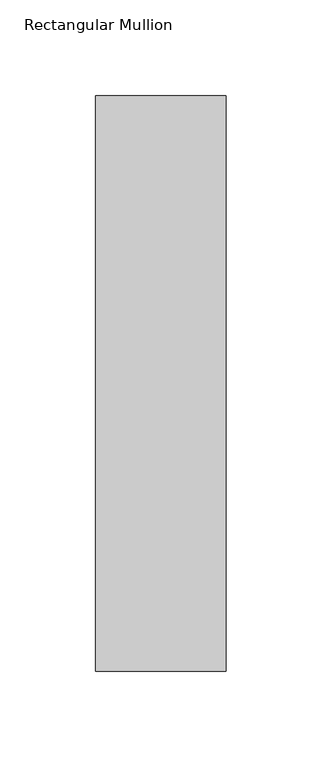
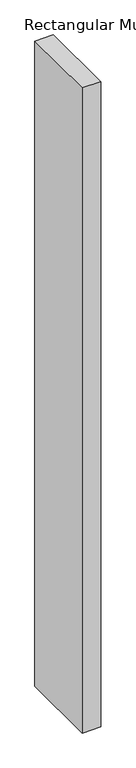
"""IFC4 building model written with IfcOpenShell, lengths in millimetres: member geometry, Rectangular Mullion : DucoSun Cubic Design louvre 300."""

from ifc_helpers import new_model, si_unit, frame, origin, place, context, project, spatial, polyline, outline, extrude, source, transform, mapped, element, save


def rectangular_mullion_e42d0783(model_context):
    return source(origin(), model_context, "Body", "SweptSolid", [
        extrude(outline(polyline([(0.0, 300.0), (0.0, 0.0), (-68.0, 0.0), (-68.0, 300.0), (0.0, 300.0)])), frame((0.0, 0.0, -2500.0), z_axis=(0.0, 0.0, 1.0), x_axis=(1.0, 0.0, 0.0)), (0.0, 0.0, 1.0), 2500.0),
    ])


if __name__ == "__main__":
    model = new_model("IFC4")
    model_context = context("Model", 3, world=origin())
    ifc_project = project(units=[si_unit("LENGTHUNIT", "METRE", prefix="MILLI")], contexts=[model_context])
    site = spatial("IfcSite", under=ifc_project)
    building = spatial("IfcBuilding", under=site)
    placement = place(None, origin())
    rectangular_mullion_shape = rectangular_mullion_e42d0783(model_context)
    element("IfcMember", 1, ObjectType="Rectangular Mullion : DucoSun Cubic Design louvre 300", at=placement, inside=building, context=model_context, shape_type="MappedRepresentation", body=[
        mapped(rectangular_mullion_shape, transform((0.0, 0.0, 0.0), x_axis=(1.0, 0.0, 0.0), y_axis=(0.0, 1.0, 0.0), z_axis=(0.0, 0.0, 1.0))),
    ])
    save(model, "model.ifc")
